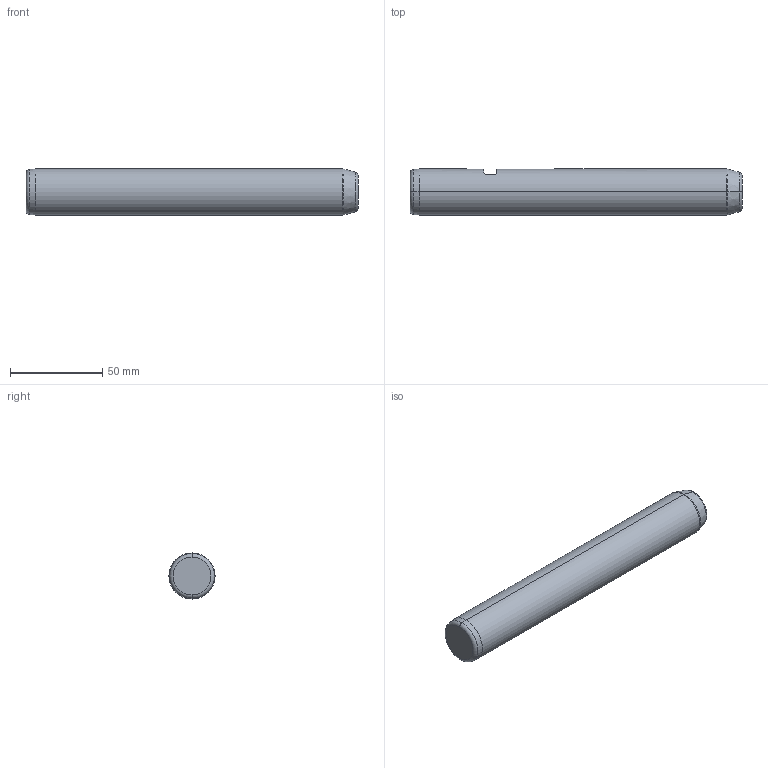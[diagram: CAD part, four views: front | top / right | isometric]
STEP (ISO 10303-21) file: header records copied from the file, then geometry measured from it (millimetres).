
FILE_DESCRIPTION (( 'STEP AP214' ), '1' );
FILE_NAME ('SP202-08-25-180.STEP', '2020-11-03T14:14:46', ( '' ), ( '' ), 'SwSTEP 2.0', 'SolidWorks 2018', '' );
FILE_SCHEMA (( 'AUTOMOTIVE_DESIGN' ));
Length unit declared in the file: millimetre
Products named in the file (1): SP202-08-25-180
Bounding box: 180 x 25 x 25 mm (x, y, z)
Volume: 83065.1 mm3; surface area: 16111 mm2
Topology: 1 solids, 1 shells, 26 faces, 54 edges, 31 vertices
Faces by surface type: cylinder 8, cone 6, torus 6, plane 6
Entity records: 744 total; most frequent: CARTESIAN_POINT 150, DIRECTION 132, ORIENTED_EDGE 104, AXIS2_PLACEMENT_3D 57, EDGE_CURVE 52, VERTEX_POINT 31, CIRCLE 30, EDGE_LOOP 29
